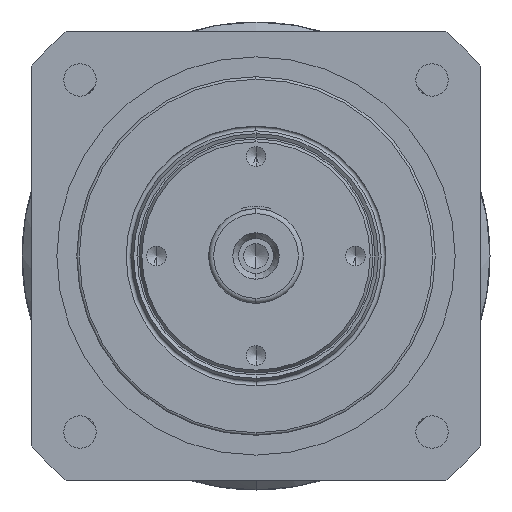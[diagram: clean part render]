
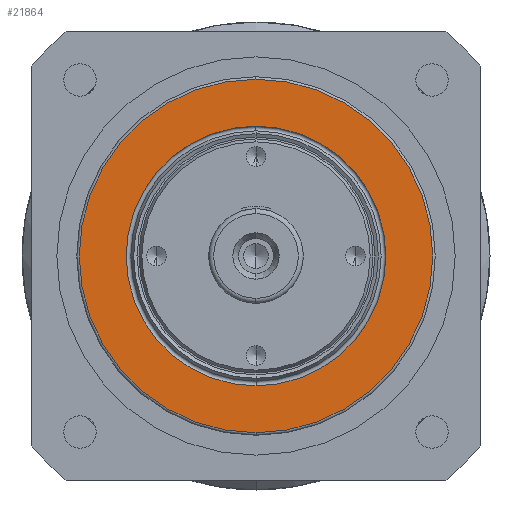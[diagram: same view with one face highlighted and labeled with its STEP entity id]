
A CAD part, left-side view. The second image highlights one B-rep face of the part: STEP entity #21864.
In plain terms, the highlighted planar face has unit normal (-1, 0, 0) as drawn and (0, -1, 0) by its records, which use the part's own axes.
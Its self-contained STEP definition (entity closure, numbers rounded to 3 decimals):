
#105 = AXIS2_PLACEMENT_3D ( 'NONE', #2850, #3549, #25456 ) ;
#1108 = ORIENTED_EDGE ( 'NONE', *, *, #13710, .T. ) ;
#2850 = CARTESIAN_POINT ( 'NONE',  ( 0., 0., 35.5 ) ) ;
#3050 = VERTEX_POINT ( 'NONE', #36925 ) ;
#3295 = EDGE_CURVE ( 'NONE', #20410, #3957, #4305, .T. ) ;
#3549 = DIRECTION ( 'NONE',  ( 0., -1., 0. ) ) ;
#3732 = CIRCLE ( 'NONE', #11794, 35.5 ) ;
#3957 = VERTEX_POINT ( 'NONE', #7017 ) ;
#4305 = CIRCLE ( 'NONE', #8421, 26.073 ) ;
#5072 = CARTESIAN_POINT ( 'NONE',  ( 0., 0., -35.5 ) ) ;
#6586 = DIRECTION ( 'NONE',  ( 0., -1., 0. ) ) ;
#7017 = CARTESIAN_POINT ( 'NONE',  ( 0., 0., -26.073 ) ) ;
#8421 = AXIS2_PLACEMENT_3D ( 'NONE', #30233, #30134, #30109 ) ;
#10661 = EDGE_CURVE ( 'NONE', #25360, #3050, #24911, .T. ) ;
#11794 = AXIS2_PLACEMENT_3D ( 'NONE', #23635, #6586, #26511 ) ;
#12118 = ORIENTED_EDGE ( 'NONE', *, *, #3295, .T. ) ;
#12676 = CARTESIAN_POINT ( 'NONE',  ( 0., 0., 26.073 ) ) ;
#13710 = EDGE_CURVE ( 'NONE', #3957, #20410, #33361, .T. ) ;
#14260 = DIRECTION ( 'NONE',  ( 0., 0., 1. ) ) ;
#14373 = DIRECTION ( 'NONE',  ( 0., -1., 0. ) ) ;
#14508 = CARTESIAN_POINT ( 'NONE',  ( 0., 0., 0. ) ) ;
#16014 = FACE_OUTER_BOUND ( 'NONE', #32555, .T. ) ;
#17541 = EDGE_LOOP ( 'NONE', ( #12118, #1108 ) ) ;
#18151 = ORIENTED_EDGE ( 'NONE', *, *, #31225, .T. ) ;
#20410 = VERTEX_POINT ( 'NONE', #12676 ) ;
#21864 = ADVANCED_FACE ( 'NONE', ( #29280, #16014 ), #30517, .T. ) ;
#23635 = CARTESIAN_POINT ( 'NONE',  ( 0., 0., 0. ) ) ;
#24911 = CIRCLE ( 'NONE', #31390, 35.5 ) ;
#25360 = VERTEX_POINT ( 'NONE', #5072 ) ;
#25456 = DIRECTION ( 'NONE',  ( 0., 0., -1. ) ) ;
#26266 = AXIS2_PLACEMENT_3D ( 'NONE', #27589, #27565, #27518 ) ;
#26511 = DIRECTION ( 'NONE',  ( 0., 0., 1. ) ) ;
#27518 = DIRECTION ( 'NONE',  ( 0., 0., 1. ) ) ;
#27565 = DIRECTION ( 'NONE',  ( 0., 1., 0. ) ) ;
#27589 = CARTESIAN_POINT ( 'NONE',  ( 0., 0., 0. ) ) ;
#29280 = FACE_BOUND ( 'NONE', #17541, .T. ) ;
#30109 = DIRECTION ( 'NONE',  ( 0., 0., 1. ) ) ;
#30134 = DIRECTION ( 'NONE',  ( 0., 1., 0. ) ) ;
#30233 = CARTESIAN_POINT ( 'NONE',  ( 0., 0., 0. ) ) ;
#30517 = PLANE ( 'NONE',  #105 ) ;
#31225 = EDGE_CURVE ( 'NONE', #3050, #25360, #3732, .T. ) ;
#31390 = AXIS2_PLACEMENT_3D ( 'NONE', #14508, #14373, #14260 ) ;
#32555 = EDGE_LOOP ( 'NONE', ( #18151, #36604 ) ) ;
#33361 = CIRCLE ( 'NONE', #26266, 26.073 ) ;
#36604 = ORIENTED_EDGE ( 'NONE', *, *, #10661, .T. ) ;
#36925 = CARTESIAN_POINT ( 'NONE',  ( 0., 0., 35.5 ) ) ;
